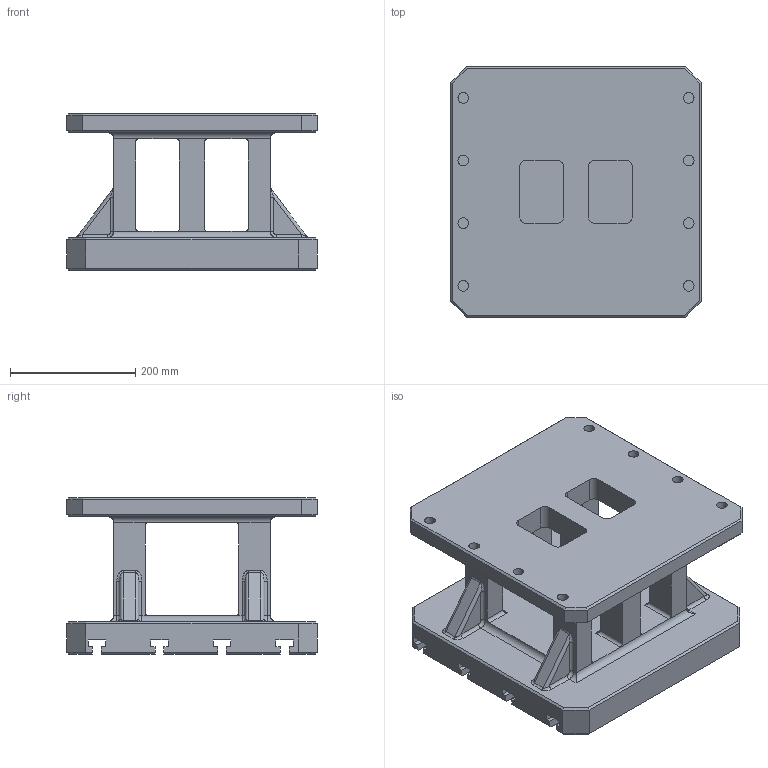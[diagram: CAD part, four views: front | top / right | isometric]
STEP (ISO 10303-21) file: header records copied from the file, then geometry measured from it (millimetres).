
FILE_DESCRIPTION((''),'2;1');
FILE_NAME('FG_WH_RISTL_TSLOTNP001','2026-05-24T11:10:10',('Admin'),(''),'CREO PARAMETRIC BY PTC INC, 2025010','CREO PARAMETRIC BY PTC INC, 2025010','');
FILE_SCHEMA(('CONFIG_CONTROL_DESIGN'));
Length unit declared in the file: millimetre
Products named in the file (1): FG_WH_RISTL_TSLOTNP001
Bounding box: 400 x 400 x 250 mm (x, y, z)
Volume: 14766480 mm3; surface area: 1026660.5 mm2
Topology: 1 solids, 1 shells, 282 faces, 712 edges, 432 vertices
Faces by surface type: plane 146, cylinder 112, bspline 24
Entity records: 9546 total; most frequent: CARTESIAN_POINT 2802, ORIENTED_EDGE 1424, DIRECTION 1340, EDGE_CURVE 712, VECTOR 488, LINE 488, VERTEX_POINT 432, AXIS2_PLACEMENT_3D 426
